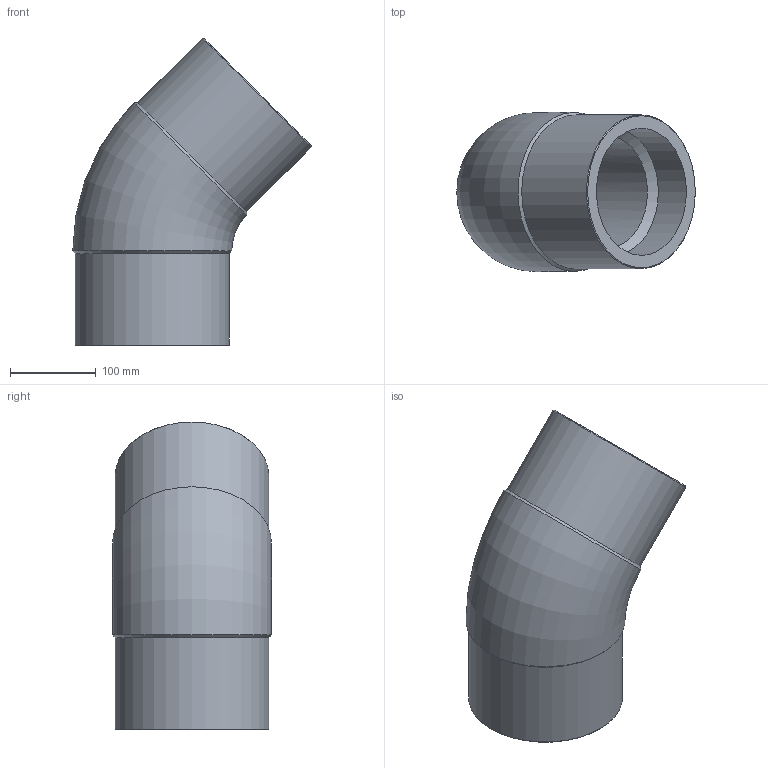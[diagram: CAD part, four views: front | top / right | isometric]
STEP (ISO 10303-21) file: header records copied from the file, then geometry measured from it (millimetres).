
FILE_DESCRIPTION(/* description */ ('Unknown'),/* implementation_level */ '2;1');
FILE_NAME(/* name */ 'G4P180G',/* time_stamp */ '2022-03-07T10:21:46+01:00',/* author */ ('Unknown'),/* organization */ ('Unknown'),/* preprocessor_version */ 'ST-DEVELOPER v18.1',/* originating_system */ 'Solid Edge',/* authorisation */ 'Unknown');
FILE_SCHEMA (('AUTOMOTIVE_DESIGN {1 0 10303 214 3 1 1}'));
Length unit declared in the file: millimetre
Products named in the file (1): G4P180G
Bounding box: 278.97 x 186 x 359.97 mm (x, y, z)
Volume: 3938121.8 mm3; surface area: 361608.7 mm2
Topology: 1 solids, 1 shells, 16 faces, 39 edges, 25 vertices
Faces by surface type: cylinder 6, cone 6, plane 2, torus 2
Full cylindrical faces by diameter (mm): 130.8 x2, 148.8 x2, 180 x2
Entity records: 408 total; most frequent: CARTESIAN_POINT 74, DIRECTION 68, ORIENTED_EDGE 42, AXIS2_PLACEMENT_3D 34, EDGE_LOOP 31, FACE_BOUND 31, EDGE_CURVE 21, VERTEX_POINT 20
